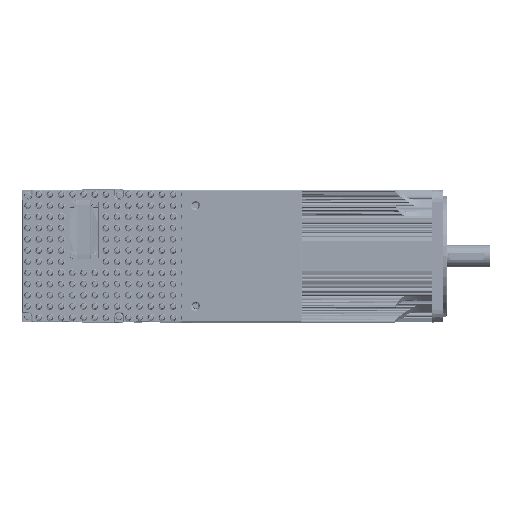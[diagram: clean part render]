
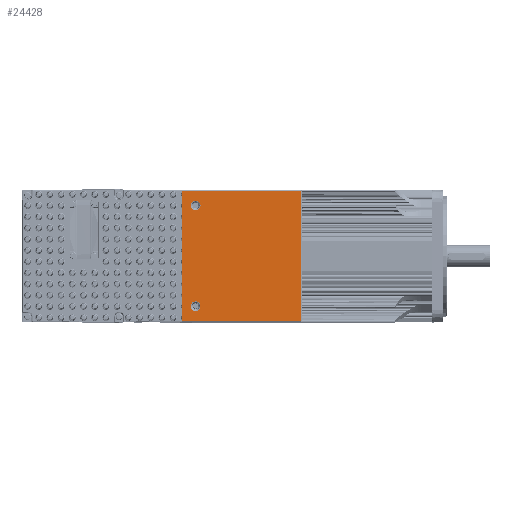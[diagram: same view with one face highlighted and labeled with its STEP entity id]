
A CAD part, top view. The second image highlights one B-rep face of the part: STEP entity #24428.
In plain terms, the highlighted planar face has unit normal (0, 0, 1).
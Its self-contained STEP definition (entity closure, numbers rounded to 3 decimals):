
#24428 = ADVANCED_FACE( 'PartBody', ( #52589, #52590, #52591 ), #52592, .T. );
#52589 = FACE_OUTER_BOUND( '', #126250, .T. );
#52590 = FACE_BOUND( '', #126251, .T. );
#52591 = FACE_BOUND( '', #126252, .T. );
#52592 = PLANE( '', #126253 );
#126250 = EDGE_LOOP( '', ( #212159, #212160, #212161, #212162 ) );
#126251 = EDGE_LOOP( '', ( #212163 ) );
#126252 = EDGE_LOOP( '', ( #212164 ) );
#126253 = AXIS2_PLACEMENT_3D( '', #212165, #212166, #212167 );
#212159 = ORIENTED_EDGE( '', *, *, #266441, .F. );
#212160 = ORIENTED_EDGE( '', *, *, #241266, .F. );
#212161 = ORIENTED_EDGE( '', *, *, #256222, .F. );
#212162 = ORIENTED_EDGE( '', *, *, #266442, .F. );
#212163 = ORIENTED_EDGE( '', *, *, #266443, .F. );
#212164 = ORIENTED_EDGE( '', *, *, #250819, .F. );
#212165 = CARTESIAN_POINT( '', ( 0., 0., 151. ) );
#212166 = DIRECTION( '', ( 0., 0., 1. ) );
#212167 = DIRECTION( '', ( 1., 0., 0. ) );
#241266 = EDGE_CURVE( '', #274308, #274309, #274310, .T. );
#250819 = EDGE_CURVE( '', #290616, #290616, #290617, .T. );
#256222 = EDGE_CURVE( '', #283216, #274308, #299009, .T. );
#266441 = EDGE_CURVE( '', #274309, #312978, #312979, .T. );
#266442 = EDGE_CURVE( '', #312978, #283216, #312980, .T. );
#266443 = EDGE_CURVE( '', #312981, #312981, #312982, .T. );
#274308 = VERTEX_POINT( '', #321585 );
#274309 = VERTEX_POINT( '', #321586 );
#274310 = LINE( '', #321587, #321588 );
#283216 = VERTEX_POINT( '', #339450 );
#290616 = VERTEX_POINT( '', #355073 );
#290617 = CIRCLE( '', #355074, 5.288 );
#299009 = LINE( '', #372096, #372097 );
#312978 = VERTEX_POINT( '', #402668 );
#312979 = LINE( '', #402669, #402670 );
#312980 = LINE( '', #402671, #402672 );
#312981 = VERTEX_POINT( '', #402673 );
#312982 = CIRCLE( '', #402674, 5.288 );
#321585 = CARTESIAN_POINT( '', ( 178.5, -69.5, 151. ) );
#321586 = CARTESIAN_POINT( '', ( 51., -69.5, 151. ) );
#321587 = CARTESIAN_POINT( '', ( 114.75, -69.5, 151. ) );
#321588 = VECTOR( '', #416994, 1000. );
#339450 = CARTESIAN_POINT( '', ( 178.5, 69.5, 151. ) );
#355073 = CARTESIAN_POINT( '', ( 71.288, 54., 151. ) );
#355074 = AXIS2_PLACEMENT_3D( '', #428514, #428515, #428516 );
#372096 = CARTESIAN_POINT( '', ( 178.5, 0., 151. ) );
#372097 = VECTOR( '', #434854, 1000. );
#402668 = CARTESIAN_POINT( '', ( 51., 69.5, 151. ) );
#402669 = CARTESIAN_POINT( '', ( 51., 0., 151. ) );
#402670 = VECTOR( '', #445596, 1000. );
#402671 = CARTESIAN_POINT( '', ( 114.75, 69.5, 151. ) );
#402672 = VECTOR( '', #445597, 1000. );
#402673 = CARTESIAN_POINT( '', ( 71.288, -54., 151. ) );
#402674 = AXIS2_PLACEMENT_3D( '', #445598, #445599, #445600 );
#416994 = DIRECTION( '', ( -1., 0., 0. ) );
#428514 = CARTESIAN_POINT( '', ( 66., 54., 151. ) );
#428515 = DIRECTION( '', ( 0., 0., 1. ) );
#428516 = DIRECTION( '', ( 1., 0., 0. ) );
#434854 = DIRECTION( '', ( 0., -1., 0. ) );
#445596 = DIRECTION( '', ( 0., 1., 0. ) );
#445597 = DIRECTION( '', ( 1., 0., 0. ) );
#445598 = CARTESIAN_POINT( '', ( 66., -54., 151. ) );
#445599 = DIRECTION( '', ( 0., 0., 1. ) );
#445600 = DIRECTION( '', ( 1., 0., 0. ) );
